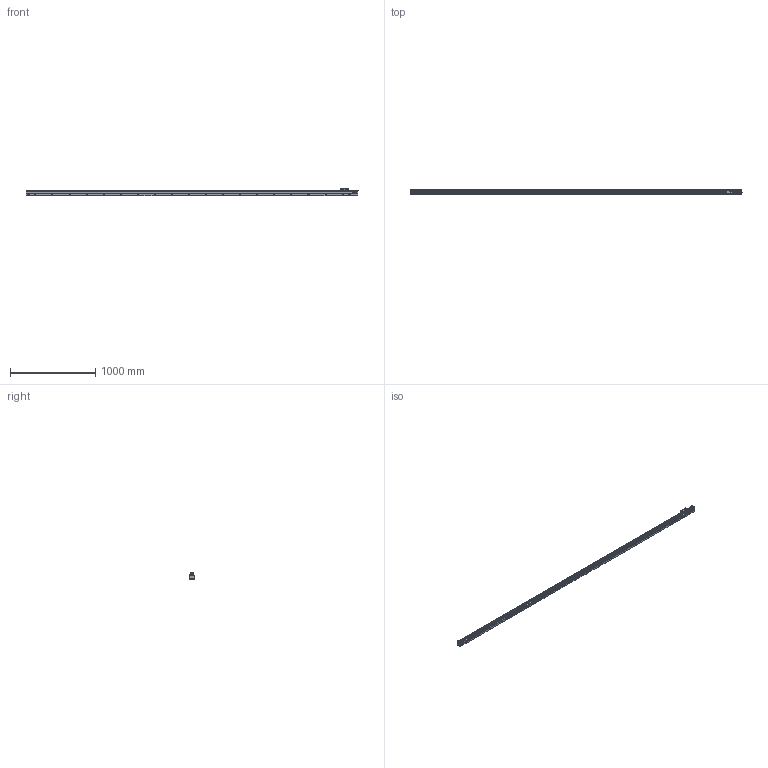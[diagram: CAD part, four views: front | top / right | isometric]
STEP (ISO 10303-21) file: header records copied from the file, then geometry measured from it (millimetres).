
FILE_DESCRIPTION(('Creo Elements/Direct Modeling STEP Export'),'2;1');
FILE_NAME('REGLA_L3_3640_M.stp','2021-02-03T13:18:34',(''),(''),'Creo Elements/Direct Modeling STEP processor for AP214 (Solid Model)','Creo Elements/Direct Modeling 19.0G 27-Nov-2017 (C) Parametric Technology GmbH','');
FILE_SCHEMA(('AUTOMOTIVE_DESIGN { 1 0 10303 214 1 1 1 1 }'));
Products named in the file (3): PERFIL_L3_3640; CABEZA_L3_M8; MOD_L3_3640_M
Assembly tree (2 placements, depth 2):
  MOD_L3_3640_M
    CABEZA_L3_M8
    PERFIL_L3_3640
Bounding box: 3890 x 50 x 85 mm (x, y, z)
Volume: 10122893.9 mm3; surface area: 1126063.8 mm2
Topology: 2 solids, 2 shells, 1960 faces, 5641 edges, 3782 vertices
Faces by surface type: plane 994, cylinder 668, cone 183, bspline 59, torus 50, extrusion 6
Entity records: 80842 total; most frequent: CARTESIAN_POINT 24112, ORIENTED_EDGE 11266, DIRECTION 9920, EDGE_CURVE 5633, VERTEX_POINT 3782, VECTOR 3552, LINE 3546, AXIS2_PLACEMENT_3D 3184
